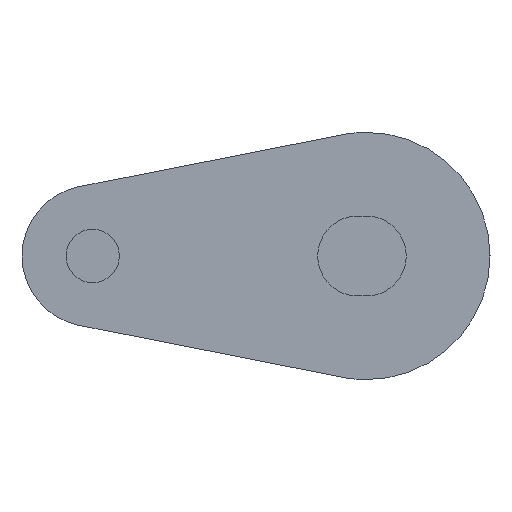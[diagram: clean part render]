
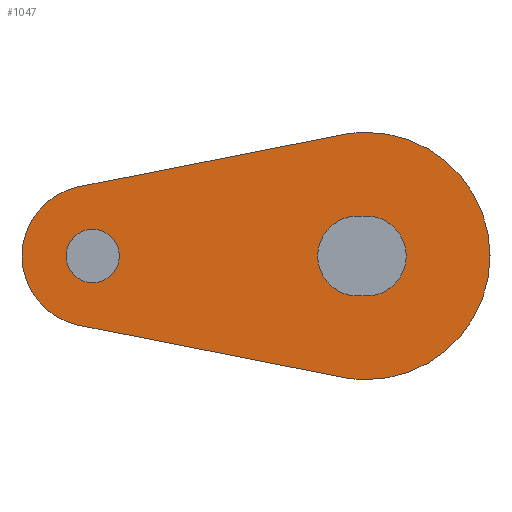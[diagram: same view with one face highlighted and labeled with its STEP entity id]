
A CAD part, left-side view. The second image highlights one B-rep face of the part: STEP entity #1047.
In plain terms, the highlighted planar face has unit normal (-1, 0, 0).
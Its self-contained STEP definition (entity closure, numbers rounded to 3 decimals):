
#23 = ORIENTED_EDGE ( 'NONE', *, *, #908, .T. ) ;
#27 = ORIENTED_EDGE ( 'NONE', *, *, #965, .F. ) ;
#29 = ORIENTED_EDGE ( 'NONE', *, *, #938, .T. ) ;
#56 = ORIENTED_EDGE ( 'NONE', *, *, #924, .T. ) ;
#57 = ORIENTED_EDGE ( 'NONE', *, *, #946, .T. ) ;
#63 = ORIENTED_EDGE ( 'NONE', *, *, #925, .F. ) ;
#65 = ORIENTED_EDGE ( 'NONE', *, *, #1009, .F. ) ;
#66 = ORIENTED_EDGE ( 'NONE', *, *, #893, .F. ) ;
#67 = ORIENTED_EDGE ( 'NONE', *, *, #952, .T. ) ;
#68 = ORIENTED_EDGE ( 'NONE', *, *, #1015, .F. ) ;
#69 = ORIENTED_EDGE ( 'NONE', *, *, #980, .F. ) ;
#71 = ORIENTED_EDGE ( 'NONE', *, *, #1021, .T. ) ;
#216 = EDGE_LOOP ( 'NONE', ( #23, #29, #56, #57 ) ) ;
#217 = EDGE_LOOP ( 'NONE', ( #71, #67 ) ) ;
#218 = EDGE_LOOP ( 'NONE', ( #66, #68, #27, #69, #63, #65 ) ) ;
#229 = CIRCLE ( 'NONE', #1007, 4. ) ;
#240 = CIRCLE ( 'NONE', #969, 2.26 ) ;
#251 = CIRCLE ( 'NONE', #1001, 2.26 ) ;
#253 = CIRCLE ( 'NONE', #942, 7. ) ;
#254 = LINE ( 'NONE', #645, #262 ) ;
#262 = VECTOR ( 'NONE', #652, 1000. ) ;
#270 = LINE ( 'NONE', #664, #271 ) ;
#271 = VECTOR ( 'NONE', #663, 1000. ) ;
#279 = CIRCLE ( 'NONE', #1011, 1.51 ) ;
#290 = CIRCLE ( 'NONE', #956, 7. ) ;
#299 = CIRCLE ( 'NONE', #1008, 7. ) ;
#318 = VECTOR ( 'NONE', #500, 1000. ) ;
#320 = LINE ( 'NONE', #625, #321 ) ;
#321 = VECTOR ( 'NONE', #624, 1000. ) ;
#324 = LINE ( 'NONE', #623, #318 ) ;
#331 = CIRCLE ( 'NONE', #906, 1.51 ) ;
#355 = FACE_BOUND ( 'NONE', #216, .T. ) ;
#358 = FACE_BOUND ( 'NONE', #217, .T. ) ;
#360 = FACE_OUTER_BOUND ( 'NONE', #218, .T. ) ;
#500 = DIRECTION ( 'NONE',  ( 0., 0.981, 0.194 ) ) ;
#510 = CARTESIAN_POINT ( 'NONE',  ( -403.5, 15.5, 0. ) ) ;
#514 = DIRECTION ( 'NONE',  ( 0., 0., -1. ) ) ;
#515 = DIRECTION ( 'NONE',  ( 1., 0., 0. ) ) ;
#552 = CARTESIAN_POINT ( 'NONE',  ( -403.5, 15.5, 0. ) ) ;
#556 = PLANE ( 'NONE',  #978 ) ;
#569 = DIRECTION ( 'NONE',  ( 0., 0., -1. ) ) ;
#570 = DIRECTION ( 'NONE',  ( -1., 0., 0. ) ) ;
#588 = DIRECTION ( 'NONE',  ( 0., 0., -1. ) ) ;
#589 = DIRECTION ( 'NONE',  ( 1., 0., 0. ) ) ;
#590 = CARTESIAN_POINT ( 'NONE',  ( -403.5, 0., 0. ) ) ;
#598 = DIRECTION ( 'NONE',  ( 0., 0., -1. ) ) ;
#599 = DIRECTION ( 'NONE',  ( 1., 0., 0. ) ) ;
#623 = CARTESIAN_POINT ( 'NONE',  ( -403.5, 1.355, -6.868 ) ) ;
#624 = DIRECTION ( 'NONE',  ( 0., -0.981, 0.194 ) ) ;
#625 = CARTESIAN_POINT ( 'NONE',  ( -403.5, 16.274, 3.924 ) ) ;
#645 = CARTESIAN_POINT ( 'NONE',  ( -403.5, 0.5, 2.26 ) ) ;
#652 = DIRECTION ( 'NONE',  ( 0., -1., 0. ) ) ;
#663 = DIRECTION ( 'NONE',  ( 0., 1., 0. ) ) ;
#664 = CARTESIAN_POINT ( 'NONE',  ( -403.5, 0.5, -2.26 ) ) ;
#667 = DIRECTION ( 'NONE',  ( 0., 0., -1. ) ) ;
#668 = DIRECTION ( 'NONE',  ( 1., 0., 0. ) ) ;
#678 = CARTESIAN_POINT ( 'NONE',  ( -403.5, 15.5, 0. ) ) ;
#680 = CARTESIAN_POINT ( 'NONE',  ( -403.5, 0., 0. ) ) ;
#684 = DIRECTION ( 'NONE',  ( 1., 0., 0. ) ) ;
#685 = DIRECTION ( 'NONE',  ( 0., 0., -1. ) ) ;
#693 = CARTESIAN_POINT ( 'NONE',  ( -403.5, 0., 0. ) ) ;
#698 = CARTESIAN_POINT ( 'NONE',  ( -403.5, 0., 0. ) ) ;
#704 = DIRECTION ( 'NONE',  ( 0., 0., -1. ) ) ;
#705 = DIRECTION ( 'NONE',  ( 1., 0., 0. ) ) ;
#707 = CARTESIAN_POINT ( 'NONE',  ( -403.5, 0.5, 0. ) ) ;
#712 = DIRECTION ( 'NONE',  ( 1., 0., 0. ) ) ;
#735 = DIRECTION ( 'NONE',  ( 0., 0., -1. ) ) ;
#740 = CARTESIAN_POINT ( 'NONE',  ( -403.5, 15.5, 0. ) ) ;
#744 = CARTESIAN_POINT ( 'NONE',  ( -403.5, 1.355, -6.868 ) ) ;
#746 = CARTESIAN_POINT ( 'NONE',  ( -403.5, 0.5, 2.26 ) ) ;
#748 = CARTESIAN_POINT ( 'NONE',  ( -403.5, 0.5, -2.26 ) ) ;
#749 = CARTESIAN_POINT ( 'NONE',  ( -403.5, 0., 2.26 ) ) ;
#752 = CARTESIAN_POINT ( 'NONE',  ( -403.5, 0., -2.26 ) ) ;
#762 = CARTESIAN_POINT ( 'NONE',  ( -403.5, 15.5, 1.51 ) ) ;
#763 = CARTESIAN_POINT ( 'NONE',  ( -403.5, 15.5, -1.51 ) ) ;
#771 = VERTEX_POINT ( 'NONE', #851 ) ;
#772 = VERTEX_POINT ( 'NONE', #803 ) ;
#783 = VERTEX_POINT ( 'NONE', #866 ) ;
#784 = VERTEX_POINT ( 'NONE', #865 ) ;
#785 = VERTEX_POINT ( 'NONE', #864 ) ;
#797 = DIRECTION ( 'NONE',  ( 1., 0., 0. ) ) ;
#799 = DIRECTION ( 'NONE',  ( 0., 0., -1. ) ) ;
#803 = CARTESIAN_POINT ( 'NONE',  ( -403.5, 0., 7. ) ) ;
#812 = VERTEX_POINT ( 'NONE', #763 ) ;
#814 = VERTEX_POINT ( 'NONE', #762 ) ;
#836 = VERTEX_POINT ( 'NONE', #752 ) ;
#839 = VERTEX_POINT ( 'NONE', #749 ) ;
#840 = VERTEX_POINT ( 'NONE', #748 ) ;
#842 = VERTEX_POINT ( 'NONE', #746 ) ;
#844 = VERTEX_POINT ( 'NONE', #744 ) ;
#851 = CARTESIAN_POINT ( 'NONE',  ( -403.5, 0., -7. ) ) ;
#864 = CARTESIAN_POINT ( 'NONE',  ( -403.5, 1.355, 6.868 ) ) ;
#865 = CARTESIAN_POINT ( 'NONE',  ( -403.5, 16.274, 3.924 ) ) ;
#866 = CARTESIAN_POINT ( 'NONE',  ( -403.5, 16.274, -3.924 ) ) ;
#893 = EDGE_CURVE ( 'NONE', #783, #784, #229, .T. ) ;
#906 = AXIS2_PLACEMENT_3D ( 'NONE', #510, #515, #514 ) ;
#908 = EDGE_CURVE ( 'NONE', #840, #842, #240, .T. ) ;
#924 = EDGE_CURVE ( 'NONE', #839, #836, #251, .T. ) ;
#925 = EDGE_CURVE ( 'NONE', #785, #772, #253, .T. ) ;
#938 = EDGE_CURVE ( 'NONE', #842, #839, #254, .T. ) ;
#942 = AXIS2_PLACEMENT_3D ( 'NONE', #698, #797, #799 ) ;
#946 = EDGE_CURVE ( 'NONE', #836, #840, #270, .T. ) ;
#952 = EDGE_CURVE ( 'NONE', #814, #812, #279, .T. ) ;
#956 = AXIS2_PLACEMENT_3D ( 'NONE', #680, #589, #588 ) ;
#965 = EDGE_CURVE ( 'NONE', #771, #844, #290, .T. ) ;
#969 = AXIS2_PLACEMENT_3D ( 'NONE', #707, #705, #704 ) ;
#978 = AXIS2_PLACEMENT_3D ( 'NONE', #552, #570, #569 ) ;
#980 = EDGE_CURVE ( 'NONE', #772, #771, #299, .T. ) ;
#1001 = AXIS2_PLACEMENT_3D ( 'NONE', #693, #684, #685 ) ;
#1007 = AXIS2_PLACEMENT_3D ( 'NONE', #740, #712, #735 ) ;
#1008 = AXIS2_PLACEMENT_3D ( 'NONE', #590, #599, #598 ) ;
#1009 = EDGE_CURVE ( 'NONE', #784, #785, #320, .T. ) ;
#1011 = AXIS2_PLACEMENT_3D ( 'NONE', #678, #668, #667 ) ;
#1015 = EDGE_CURVE ( 'NONE', #844, #783, #324, .T. ) ;
#1021 = EDGE_CURVE ( 'NONE', #812, #814, #331, .T. ) ;
#1047 = ADVANCED_FACE ( 'NONE', ( #355, #358, #360 ), #556, .T. ) ;
